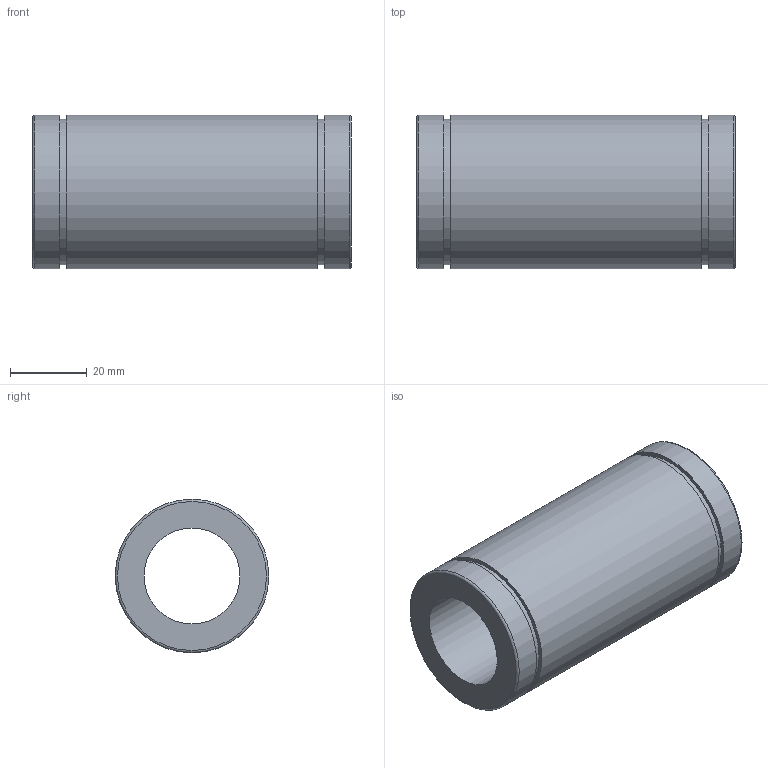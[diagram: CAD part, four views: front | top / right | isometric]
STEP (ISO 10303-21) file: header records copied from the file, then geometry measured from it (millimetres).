
FILE_DESCRIPTION(('STEP AP203'),'1');
FILE_NAME('//192.168.1.1/share/s-4 技術開発/s-4-13_CAD/03_見直し済み/001 修正済み/N-VM/N-VM_STEP/N-25VM.step','2020-04-08T00:10:20',(' '),(' '),'Spatial InterOp 3D',' ',' ');
FILE_SCHEMA(('CONFIG_CONTROL_DESIGN'));
Length unit declared in the file: millimetre
Products named in the file (1): 1
Bounding box: 83 x 40 x 40 mm (x, y, z)
Volume: 63073.5 mm3; surface area: 18881.6 mm2
Topology: 1 solids, 1 shells, 14 faces, 22 edges, 14 vertices
Faces by surface type: plane 6, cylinder 6, torus 2
Full cylindrical faces by diameter (mm): 25 x1, 38 x2, 40 x3
Entity records: 332 total; most frequent: DIRECTION 58, CARTESIAN_POINT 43, AXIS2_PLACEMENT_3D 29, EDGE_LOOP 28, ORIENTED_EDGE 28, FACE_OUTER_BOUND 22, ADVANCED_FACE 14, EDGE_CURVE 14
